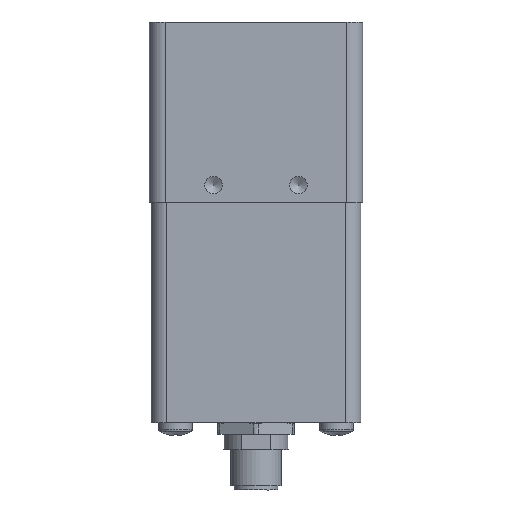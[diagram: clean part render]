
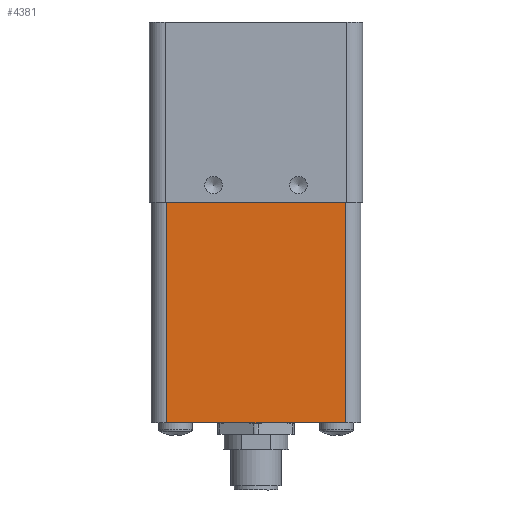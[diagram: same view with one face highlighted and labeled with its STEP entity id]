
A CAD part, front view. The second image highlights one B-rep face of the part: STEP entity #4381.
In plain terms, the highlighted planar face has unit normal (0, -1, 0).
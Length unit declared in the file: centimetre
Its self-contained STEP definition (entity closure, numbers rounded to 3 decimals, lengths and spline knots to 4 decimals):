
#300=LINE('',#6697,#637);
#307=LINE('',#6717,#644);
#320=LINE('',#6945,#657);
#321=LINE('',#6946,#658);
#637=VECTOR('',#5303,4.2);
#644=VECTOR('',#5322,5.2);
#657=VECTOR('',#5425,5.2);
#658=VECTOR('',#5426,4.2);
#927=PLANE('',#4682);
#1254=FACE_OUTER_BOUND('',#1546,.T.);
#1546=EDGE_LOOP('',(#3442,#3443,#3444,#3445));
#2003=VERTEX_POINT('',#6694);
#2004=VERTEX_POINT('',#6696);
#2011=VERTEX_POINT('',#6716);
#2044=VERTEX_POINT('',#6944);
#2490=EDGE_CURVE('',#2003,#2004,#300,.T.);
#2500=EDGE_CURVE('',#2011,#2003,#307,.T.);
#2546=EDGE_CURVE('',#2004,#2044,#320,.T.);
#2547=EDGE_CURVE('',#2011,#2044,#321,.T.);
#3442=ORIENTED_EDGE('',*,*,#2546,.F.);
#3443=ORIENTED_EDGE('',*,*,#2490,.F.);
#3444=ORIENTED_EDGE('',*,*,#2500,.F.);
#3445=ORIENTED_EDGE('',*,*,#2547,.T.);
#4381=ADVANCED_FACE('',(#1254),#927,.T.);
#4682=AXIS2_PLACEMENT_3D('',#6943,#5423,#5424);
#5303=DIRECTION('',(1.,0.,0.));
#5322=DIRECTION('',(0.,0.,1.));
#5423=DIRECTION('center_axis',(0.,-1.,0.));
#5424=DIRECTION('ref_axis',(0.,0.,-1.));
#5425=DIRECTION('',(0.,0.,-1.));
#5426=DIRECTION('',(1.,0.,0.));
#6694=CARTESIAN_POINT('',(0.4175,0.0425,-2.05));
#6696=CARTESIAN_POINT('',(4.6175,0.0425,-2.05));
#6697=CARTESIAN_POINT('',(0.4175,0.0425,-2.05));
#6716=CARTESIAN_POINT('',(0.4175,0.0425,-7.25));
#6717=CARTESIAN_POINT('',(0.4175,0.0425,-7.25));
#6943=CARTESIAN_POINT('Origin',(0.0425,0.0425,-6.94));
#6944=CARTESIAN_POINT('',(4.6175,0.0425,-7.25));
#6945=CARTESIAN_POINT('',(4.6175,0.0425,-2.05));
#6946=CARTESIAN_POINT('',(0.4175,0.0425,-7.25));
